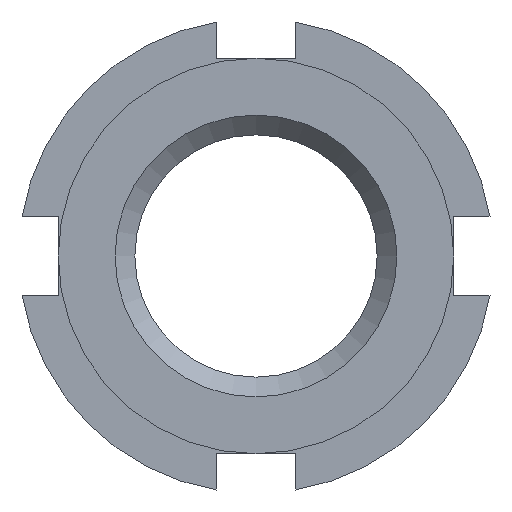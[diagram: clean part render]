
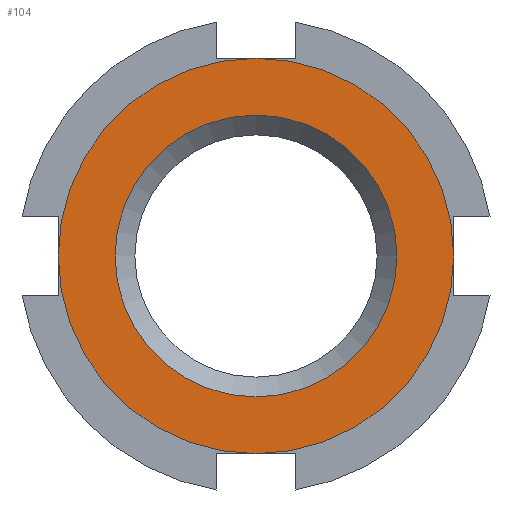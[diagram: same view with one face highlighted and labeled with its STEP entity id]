
A CAD part, left-side view. The second image highlights one B-rep face of the part: STEP entity #104.
In plain terms, the highlighted planar face has unit normal (-1, 0, 0).
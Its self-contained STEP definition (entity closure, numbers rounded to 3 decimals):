
#104 = ADVANCED_FACE( '', ( #177, #178 ), #179, .F. );
#177 = FACE_OUTER_BOUND( '', #255, .T. );
#178 = FACE_BOUND( '', #256, .T. );
#179 = PLANE( '', #257 );
#255 = EDGE_LOOP( '', ( #475 ) );
#256 = EDGE_LOOP( '', ( #476 ) );
#257 = AXIS2_PLACEMENT_3D( '', #477, #478, #479 );
#475 = ORIENTED_EDGE( '', *, *, #570, .F. );
#476 = ORIENTED_EDGE( '', *, *, #550, .T. );
#477 = CARTESIAN_POINT( '', ( 0., 0., 0. ) );
#478 = DIRECTION( '', ( 1., 0., 0. ) );
#479 = DIRECTION( '', ( 0., 0., -1. ) );
#550 = EDGE_CURVE( '', #656, #656, #657, .T. );
#570 = EDGE_CURVE( '', #684, #684, #685, .T. );
#656 = VERTEX_POINT( '', #841 );
#657 = CIRCLE( '', #842, 5.344 );
#684 = VERTEX_POINT( '', #877 );
#685 = CIRCLE( '', #878, 7.5 );
#841 = CARTESIAN_POINT( '', ( 0., 0., -5.344 ) );
#842 = AXIS2_PLACEMENT_3D( '', #963, #964, #965 );
#877 = CARTESIAN_POINT( '', ( 0., 0., -7.5 ) );
#878 = AXIS2_PLACEMENT_3D( '', #1010, #1011, #1012 );
#963 = CARTESIAN_POINT( '', ( 0., 0., 0. ) );
#964 = DIRECTION( '', ( 1., 0., 0. ) );
#965 = DIRECTION( '', ( 0., 0., -1. ) );
#1010 = CARTESIAN_POINT( '', ( 0., 0., 0. ) );
#1011 = DIRECTION( '', ( 1., 0., 0. ) );
#1012 = DIRECTION( '', ( 0., 0., -1. ) );
